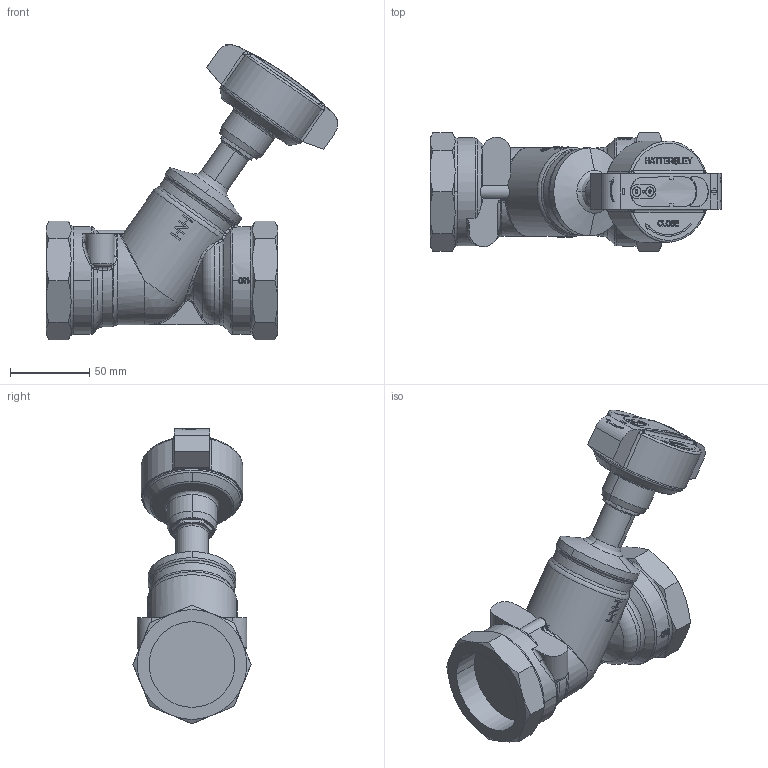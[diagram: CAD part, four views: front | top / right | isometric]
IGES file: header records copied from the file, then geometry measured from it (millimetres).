
Global section: file name: No Iges File Name specified; native system: AutoDesk Inventor R12.0; preprocessor: AutoDesk Inventor Iges Exporter R12.0; date: 20110307.154330; units: millimetre
Bounding box: 184.03 x 74.69 x 186.34 mm (x, y, z)
Volume: 602900.6 mm3; surface area: 69330.7 mm2
Topology: 1 solids, 1 shells, 1130 faces, 3140 edges, 2055 vertices
Faces by surface type: bspline 680, plane 300, cylinder 66, cone 45, revolution 22, torus 15, sphere 2
